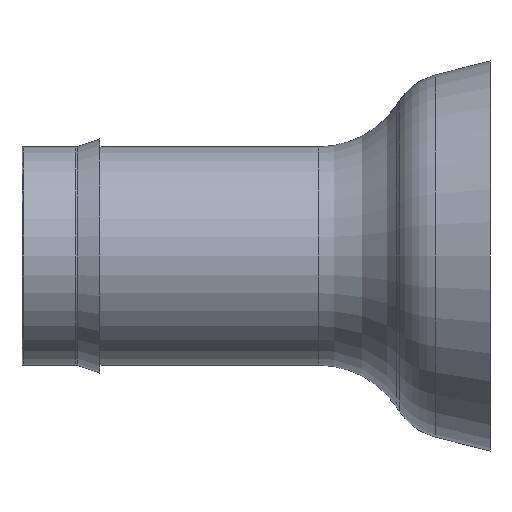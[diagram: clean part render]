
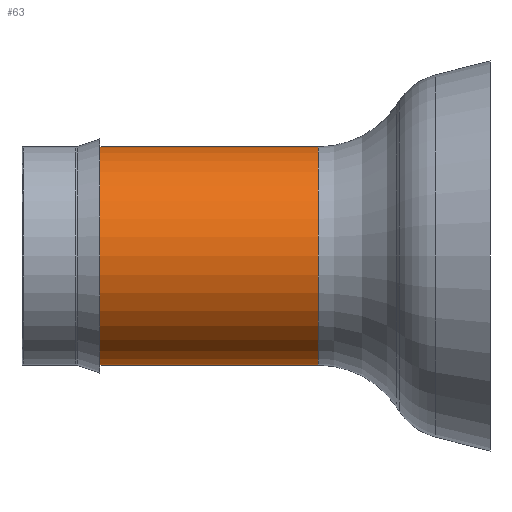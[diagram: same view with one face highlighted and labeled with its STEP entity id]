
A CAD part, left-side view. The second image highlights one B-rep face of the part: STEP entity #63.
In plain terms, the highlighted cylindrical face has radius 7 mm (diameter 14 mm), a partial arc.
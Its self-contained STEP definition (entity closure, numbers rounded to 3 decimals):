
#9 = ORIENTED_EDGE ( 'NONE', *, *, #76, .F. ) ;
#19 = AXIS2_PLACEMENT_3D ( 'NONE', #182, #581, #251 ) ;
#29 = DIRECTION ( 'NONE',  ( 0., 1., 0. ) ) ;
#40 = AXIS2_PLACEMENT_3D ( 'NONE', #364, #29, #649 ) ;
#42 = DIRECTION ( 'NONE',  ( 0., 1., 0. ) ) ;
#43 = EDGE_LOOP ( 'NONE', ( #838, #322, #407, #9 ) ) ;
#63 = ADVANCED_FACE ( 'NONE', ( #598 ), #233, .T. ) ;
#76 = EDGE_CURVE ( 'NONE', #764, #178, #210, .T. ) ;
#86 = VERTEX_POINT ( 'NONE', #797 ) ;
#103 = DIRECTION ( 'NONE',  ( 0., 0., 1. ) ) ;
#112 = AXIS2_PLACEMENT_3D ( 'NONE', #734, #42, #103 ) ;
#151 = CARTESIAN_POINT ( 'NONE',  ( 0., 53.08, 7. ) ) ;
#178 = VERTEX_POINT ( 'NONE', #513 ) ;
#182 = CARTESIAN_POINT ( 'NONE',  ( 0., 53.08, 0. ) ) ;
#199 = DIRECTION ( 'NONE',  ( 0., 1., 0. ) ) ;
#210 = CIRCLE ( 'NONE', #112, 7. ) ;
#233 = CYLINDRICAL_SURFACE ( 'NONE', #19, 7. ) ;
#251 = DIRECTION ( 'NONE',  ( 0., 0., 1. ) ) ;
#322 = ORIENTED_EDGE ( 'NONE', *, *, #875, .T. ) ;
#364 = CARTESIAN_POINT ( 'NONE',  ( 0., -19., 0. ) ) ;
#407 = ORIENTED_EDGE ( 'NONE', *, *, #743, .T. ) ;
#463 = VECTOR ( 'NONE', #199, 1000. ) ;
#477 = CARTESIAN_POINT ( 'NONE',  ( 0., -5., -7. ) ) ;
#513 = CARTESIAN_POINT ( 'NONE',  ( 0., -5., 7. ) ) ;
#572 = VERTEX_POINT ( 'NONE', #681 ) ;
#580 = EDGE_CURVE ( 'NONE', #86, #764, #851, .T. ) ;
#581 = DIRECTION ( 'NONE',  ( 0., 1., 0. ) ) ;
#598 = FACE_OUTER_BOUND ( 'NONE', #43, .T. ) ;
#649 = DIRECTION ( 'NONE',  ( 0., 0., 1. ) ) ;
#681 = CARTESIAN_POINT ( 'NONE',  ( 0., -19., 7. ) ) ;
#683 = CARTESIAN_POINT ( 'NONE',  ( 0., 53.08, -7. ) ) ;
#734 = CARTESIAN_POINT ( 'NONE',  ( 0., -5., 0. ) ) ;
#743 = EDGE_CURVE ( 'NONE', #572, #178, #866, .T. ) ;
#761 = DIRECTION ( 'NONE',  ( 0., 1., 0. ) ) ;
#764 = VERTEX_POINT ( 'NONE', #477 ) ;
#797 = CARTESIAN_POINT ( 'NONE',  ( 0., -19., -7. ) ) ;
#801 = CIRCLE ( 'NONE', #40, 7. ) ;
#838 = ORIENTED_EDGE ( 'NONE', *, *, #580, .F. ) ;
#843 = VECTOR ( 'NONE', #761, 1000. ) ;
#851 = LINE ( 'NONE', #683, #463 ) ;
#866 = LINE ( 'NONE', #151, #843 ) ;
#875 = EDGE_CURVE ( 'NONE', #86, #572, #801, .T. ) ;
